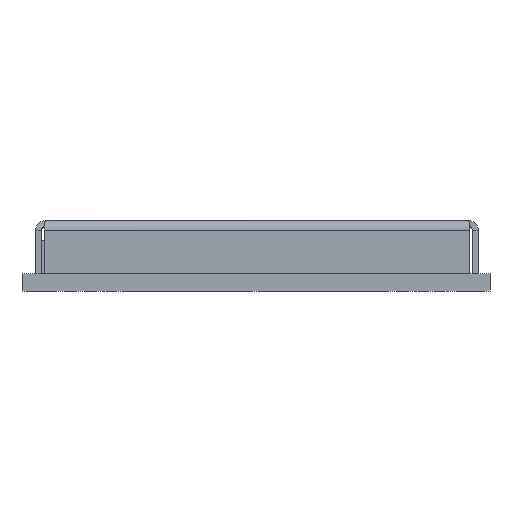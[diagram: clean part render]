
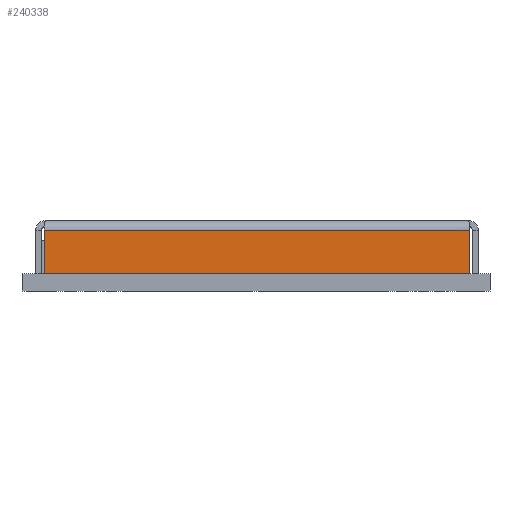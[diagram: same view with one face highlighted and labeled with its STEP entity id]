
A CAD part, front view. The second image highlights one B-rep face of the part: STEP entity #240338.
In plain terms, the highlighted planar face has unit normal (0, -1, 0).
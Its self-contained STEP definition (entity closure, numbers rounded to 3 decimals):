
#13584 = CARTESIAN_POINT ( 'NONE',  ( 0.574, 0.354, 1.36 ) ) ;
#18093 = CARTESIAN_POINT ( 'NONE',  ( 11.477, 0.354, 0. ) ) ;
#30421 = CARTESIAN_POINT ( 'NONE',  ( 0.574, 0.354, 1.11 ) ) ;
#43405 = DIRECTION ( 'NONE',  ( 0., 0., 1. ) ) ;
#44582 = CARTESIAN_POINT ( 'NONE',  ( 11.477, 0.354, 1.11 ) ) ;
#57051 = ORIENTED_EDGE ( 'NONE', *, *, #99772, .T. ) ;
#58522 = CARTESIAN_POINT ( 'NONE',  ( 11.477, 0.354, 1.36 ) ) ;
#60378 = LINE ( 'NONE', #137230, #205916 ) ;
#60998 = LINE ( 'NONE', #58522, #67481 ) ;
#65299 = PLANE ( 'NONE',  #200753 ) ;
#67481 = VECTOR ( 'NONE', #43405, 1000. ) ;
#68944 = VERTEX_POINT ( 'NONE', #18093 ) ;
#82979 = FACE_OUTER_BOUND ( 'NONE', #186796, .T. ) ;
#99772 = EDGE_CURVE ( 'NONE', #241219, #195446, #112689, .T. ) ;
#111388 = VECTOR ( 'NONE', #223700, 1000. ) ;
#112383 = DIRECTION ( 'NONE',  ( 1., 0., 0. ) ) ;
#112689 = LINE ( 'NONE', #170628, #217604 ) ;
#137230 = CARTESIAN_POINT ( 'NONE',  ( 11.697, 0.354, 0. ) ) ;
#142192 = CARTESIAN_POINT ( 'NONE',  ( 11.697, 0.354, 1.36 ) ) ;
#148682 = EDGE_CURVE ( 'NONE', #68944, #241219, #60998, .T. ) ;
#153296 = EDGE_CURVE ( 'NONE', #195446, #242923, #240251, .T. ) ;
#163399 = ORIENTED_EDGE ( 'NONE', *, *, #166278, .T. ) ;
#166278 = EDGE_CURVE ( 'NONE', #242923, #68944, #60378, .T. ) ;
#170628 = CARTESIAN_POINT ( 'NONE',  ( 11.697, 0.354, 1.11 ) ) ;
#181124 = DIRECTION ( 'NONE',  ( 0., 0., 1. ) ) ;
#186796 = EDGE_LOOP ( 'NONE', ( #219111, #57051, #244983, #163399 ) ) ;
#190652 = DIRECTION ( 'NONE',  ( -1., 0., 0. ) ) ;
#195446 = VERTEX_POINT ( 'NONE', #30421 ) ;
#199916 = DIRECTION ( 'NONE',  ( 0., 1., 0. ) ) ;
#200753 = AXIS2_PLACEMENT_3D ( 'NONE', #142192, #199916, #181124 ) ;
#205916 = VECTOR ( 'NONE', #112383, 1000. ) ;
#217604 = VECTOR ( 'NONE', #190652, 1000. ) ;
#218303 = CARTESIAN_POINT ( 'NONE',  ( 0.574, 0.354, 0. ) ) ;
#219111 = ORIENTED_EDGE ( 'NONE', *, *, #148682, .T. ) ;
#223700 = DIRECTION ( 'NONE',  ( 0., 0., -1. ) ) ;
#240251 = LINE ( 'NONE', #13584, #111388 ) ;
#240338 = ADVANCED_FACE ( 'NONE', ( #82979 ), #65299, .F. ) ;
#241219 = VERTEX_POINT ( 'NONE', #44582 ) ;
#242923 = VERTEX_POINT ( 'NONE', #218303 ) ;
#244983 = ORIENTED_EDGE ( 'NONE', *, *, #153296, .T. ) ;
